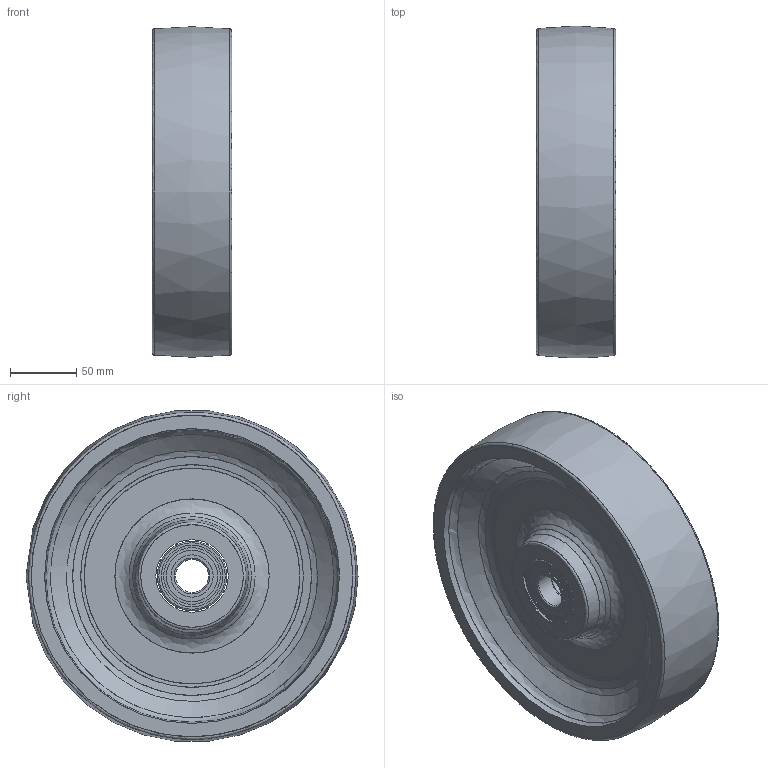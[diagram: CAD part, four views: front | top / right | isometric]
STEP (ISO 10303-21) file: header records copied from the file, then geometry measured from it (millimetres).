
FILE_DESCRIPTION(('STEP AP214'),'2;1');
FILE_NAME('4009-CC.stp','2010-04-14T16:18:47',(''),(''),'2008.1.107','THINKDESIGN','');
FILE_SCHEMA(('AUTOMOTIVE_DESIGN'));
Length unit declared in the file: millimetre
Products named in the file (16): P4217_B; SKF6205RSL1050190205PART1; SKF6205RSL1050190205PART2; SKF6205RSL1050190205PART3; comp5; SKF6205RSL1050190205PART4; comp8; comp7; comp6; comp4; comp3; comp2; comp1; SKF-6205_Z; P229; top
Assembly tree (16 placements, depth 4):
  top
    P4217_B
    P229  x2
      SKF-6205_Z
        SKF6205RSL1050190205PART1
        SKF6205RSL1050190205PART2
        SKF6205RSL1050190205PART3
        comp5
        SKF6205RSL1050190205PART4
        comp8
        comp7
        comp6
        comp4
        comp3
        comp2
        comp1
Bounding box: 60 x 249.98 x 248.8 mm (x, y, z)
Volume: 31036.4 mm3; surface area: 192096.8 mm2
Topology: 25 solids, 25 shells, 132 faces, 416 edges, 363 vertices
Faces by surface type: bspline 77, cylinder 28, plane 27
Full cylindrical faces by diameter (mm): 25 x2, 26 x1, 30 x1, 31.8 x6, 34.4 x4, 44.2 x4, 44.5 x1, 46 x1, 46.3 x6, 52 x2
Entity records: 19038 total; most frequent: CARTESIAN_POINT 16485, DIRECTION 495, ORIENTED_EDGE 244, AXIS2_PLACEMENT_3D 208, COMPOSITE_CURVE_SEGMENT 164, CIRCLE 125, EDGE_CURVE 122, VERTEX_POINT 100
